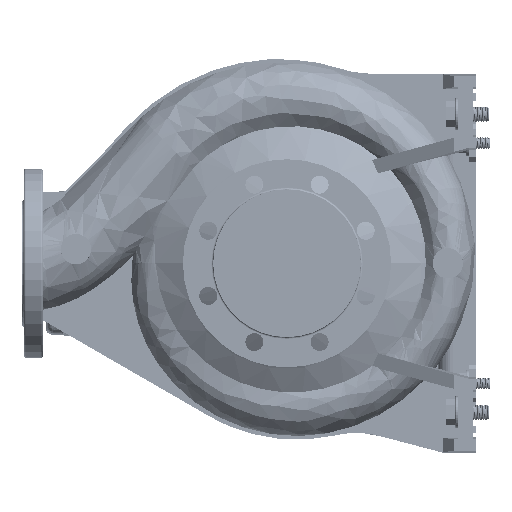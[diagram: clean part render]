
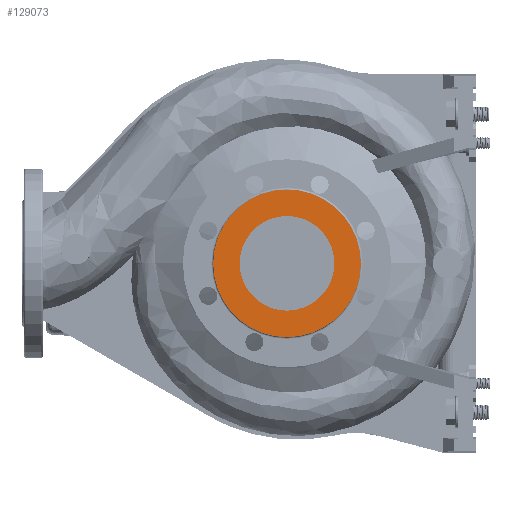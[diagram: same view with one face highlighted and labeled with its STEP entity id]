
A CAD part, left-side view. The second image highlights one B-rep face of the part: STEP entity #129073.
In plain terms, the highlighted planar face has unit normal (-1, 0, 0).
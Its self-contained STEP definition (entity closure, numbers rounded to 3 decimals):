
#6901 = VERTEX_POINT ( 'NONE', #198644 ) ;
#7045 = ORIENTED_EDGE ( 'NONE', *, *, #136377, .T. ) ;
#10814 = AXIS2_PLACEMENT_3D ( 'NONE', #27814, #195000, #155663 ) ;
#14613 = CIRCLE ( 'NONE', #136320, 78. ) ;
#16063 = FACE_BOUND ( 'NONE', #120136, .T. ) ;
#16410 = CIRCLE ( 'NONE', #216551, 50. ) ;
#27814 = CARTESIAN_POINT ( 'NONE',  ( -125., 0., 0. ) ) ;
#30863 = CARTESIAN_POINT ( 'NONE',  ( -125., 50.001, -50.001 ) ) ;
#42198 = CIRCLE ( 'NONE', #10814, 50. ) ;
#50235 = VERTEX_POINT ( 'NONE', #75604 ) ;
#51130 = DIRECTION ( 'NONE',  ( 0., 0., 1. ) ) ;
#56090 = EDGE_CURVE ( 'NONE', #191739, #50235, #42198, .T. ) ;
#64168 = CARTESIAN_POINT ( 'NONE',  ( -125., 78., 0. ) ) ;
#75604 = CARTESIAN_POINT ( 'NONE',  ( -125., 0., 50. ) ) ;
#78162 = EDGE_LOOP ( 'NONE', ( #7045, #221839 ) ) ;
#87338 = DIRECTION ( 'NONE',  ( 0., 0., 1. ) ) ;
#89199 = DIRECTION ( 'NONE',  ( -1., 0., 0. ) ) ;
#103956 = CARTESIAN_POINT ( 'NONE',  ( -125., 0., 0. ) ) ;
#105758 = DIRECTION ( 'NONE',  ( 1., 0., 0. ) ) ;
#112492 = AXIS2_PLACEMENT_3D ( 'NONE', #30863, #105758, #87338 ) ;
#120136 = EDGE_LOOP ( 'NONE', ( #141705, #137668 ) ) ;
#129073 = ADVANCED_FACE ( 'NONE', ( #16063, #142656 ), #217649, .F. ) ;
#136320 = AXIS2_PLACEMENT_3D ( 'NONE', #168721, #89199, #162968 ) ;
#136377 = EDGE_CURVE ( 'NONE', #6901, #184718, #14613, .T. ) ;
#137668 = ORIENTED_EDGE ( 'NONE', *, *, #56090, .F. ) ;
#139715 = CARTESIAN_POINT ( 'NONE',  ( -125., 0., 0. ) ) ;
#141705 = ORIENTED_EDGE ( 'NONE', *, *, #234625, .F. ) ;
#142656 = FACE_OUTER_BOUND ( 'NONE', #78162, .T. ) ;
#155663 = DIRECTION ( 'NONE',  ( 0., 0., 1. ) ) ;
#156967 = DIRECTION ( 'NONE',  ( -1., 0., 0. ) ) ;
#160539 = DIRECTION ( 'NONE',  ( -1., 0., 0. ) ) ;
#161881 = CARTESIAN_POINT ( 'NONE',  ( -125., 0., -50. ) ) ;
#162968 = DIRECTION ( 'NONE',  ( 0., -1., 0. ) ) ;
#168343 = AXIS2_PLACEMENT_3D ( 'NONE', #139715, #156967, #198731 ) ;
#168721 = CARTESIAN_POINT ( 'NONE',  ( -125., 0., 0. ) ) ;
#172225 = CIRCLE ( 'NONE', #168343, 78. ) ;
#184718 = VERTEX_POINT ( 'NONE', #64168 ) ;
#191739 = VERTEX_POINT ( 'NONE', #161881 ) ;
#195000 = DIRECTION ( 'NONE',  ( -1., 0., 0. ) ) ;
#198644 = CARTESIAN_POINT ( 'NONE',  ( -125., -78., 0. ) ) ;
#198731 = DIRECTION ( 'NONE',  ( 0., -1., 0. ) ) ;
#216551 = AXIS2_PLACEMENT_3D ( 'NONE', #103956, #160539, #51130 ) ;
#217649 = PLANE ( 'NONE',  #112492 ) ;
#221839 = ORIENTED_EDGE ( 'NONE', *, *, #228347, .T. ) ;
#228347 = EDGE_CURVE ( 'NONE', #184718, #6901, #172225, .T. ) ;
#234625 = EDGE_CURVE ( 'NONE', #50235, #191739, #16410, .T. ) ;
